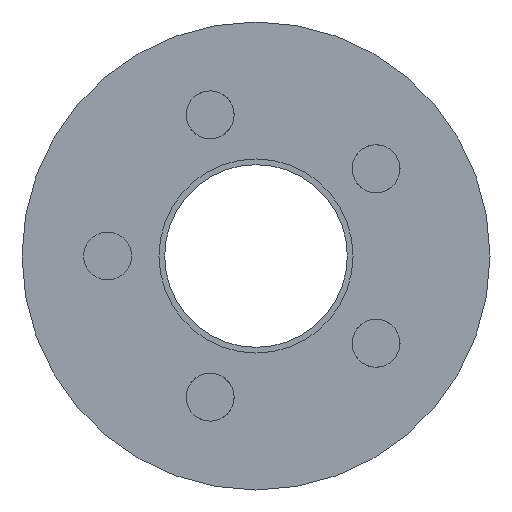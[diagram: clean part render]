
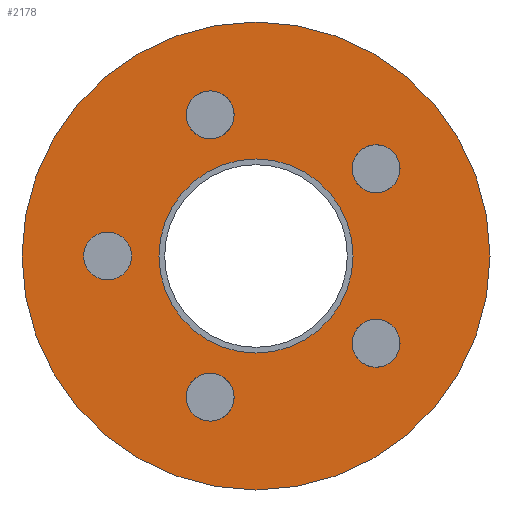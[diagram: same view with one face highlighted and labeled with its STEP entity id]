
A CAD part, left-side view. The second image highlights one B-rep face of the part: STEP entity #2178.
In plain terms, the highlighted planar face has unit normal (-1, 0, 0).
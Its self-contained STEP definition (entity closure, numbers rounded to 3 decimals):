
#1126 = EDGE_LOOP ( 'NONE', ( #2025, #2026 ) ) ;
#1195 = EDGE_CURVE ( 'NONE', #1196, #1197, #1631, .T. ) ;
#1196 = VERTEX_POINT ( 'NONE', #1627 ) ;
#1197 = VERTEX_POINT ( 'NONE', #1626 ) ;
#1219 = EDGE_CURVE ( 'NONE', #1220, #1221, #1586, .T. ) ;
#1220 = VERTEX_POINT ( 'NONE', #1454 ) ;
#1221 = VERTEX_POINT ( 'NONE', #1453 ) ;
#1315 = EDGE_CURVE ( 'NONE', #1316, #1317, #1769, .T. ) ;
#1316 = VERTEX_POINT ( 'NONE', #1764 ) ;
#1317 = VERTEX_POINT ( 'NONE', #1763 ) ;
#1334 = DIRECTION ( 'NONE',  ( 0., 0., -1. ) ) ;
#1399 = EDGE_CURVE ( 'NONE', #1400, #1401, #2509, .T. ) ;
#1400 = VERTEX_POINT ( 'NONE', #2521 ) ;
#1401 = VERTEX_POINT ( 'NONE', #2516 ) ;
#1423 = EDGE_CURVE ( 'NONE', #1424, #1425, #2197, .T. ) ;
#1424 = VERTEX_POINT ( 'NONE', #2583 ) ;
#1425 = VERTEX_POINT ( 'NONE', #2700 ) ;
#1453 = CARTESIAN_POINT ( 'NONE',  ( 0., 13., 2.1 ) ) ;
#1454 = CARTESIAN_POINT ( 'NONE',  ( 0., 13., -2.1 ) ) ;
#1455 = DIRECTION ( 'NONE',  ( 0., 0., -1. ) ) ;
#1584 = DIRECTION ( 'NONE',  ( -1., 0., 0. ) ) ;
#1585 = AXIS2_PLACEMENT_3D ( 'NONE', #1592, #1584, #1455 ) ;
#1586 = CIRCLE ( 'NONE', #1585, 2.1 ) ;
#1592 = CARTESIAN_POINT ( 'NONE',  ( 0., 13., 0. ) ) ;
#1626 = CARTESIAN_POINT ( 'NONE',  ( 0., -10.517, -5.541 ) ) ;
#1627 = CARTESIAN_POINT ( 'NONE',  ( 0., -10.517, -9.741 ) ) ;
#1628 = DIRECTION ( 'NONE',  ( 0., 0., -1. ) ) ;
#1629 = DIRECTION ( 'NONE',  ( -1., 0., 0. ) ) ;
#1630 = AXIS2_PLACEMENT_3D ( 'NONE', #1637, #1629, #1628 ) ;
#1631 = CIRCLE ( 'NONE', #1630, 2.1 ) ;
#1637 = CARTESIAN_POINT ( 'NONE',  ( 0., -10.517, -7.641 ) ) ;
#1763 = CARTESIAN_POINT ( 'NONE',  ( 0., -10.517, 9.741 ) ) ;
#1764 = CARTESIAN_POINT ( 'NONE',  ( 0., -10.517, 5.541 ) ) ;
#1765 = DIRECTION ( 'NONE',  ( 0., 0., -1. ) ) ;
#1766 = DIRECTION ( 'NONE',  ( -1., 0., 0. ) ) ;
#1767 = CARTESIAN_POINT ( 'NONE',  ( 0., -10.517, 7.641 ) ) ;
#1768 = AXIS2_PLACEMENT_3D ( 'NONE', #1767, #1766, #1765 ) ;
#1769 = CIRCLE ( 'NONE', #1768, 2.1 ) ;
#2016 = ORIENTED_EDGE ( 'NONE', *, *, #1315, .F. ) ;
#2017 = ORIENTED_EDGE ( 'NONE', *, *, #2018, .F. ) ;
#2018 = EDGE_CURVE ( 'NONE', #1317, #1316, #2730, .T. ) ;
#2019 = ORIENTED_EDGE ( 'NONE', *, *, #1423, .F. ) ;
#2020 = ORIENTED_EDGE ( 'NONE', *, *, #2021, .F. ) ;
#2021 = EDGE_CURVE ( 'NONE', #1425, #1424, #2577, .T. ) ;
#2025 = ORIENTED_EDGE ( 'NONE', *, *, #2135, .T. ) ;
#2026 = ORIENTED_EDGE ( 'NONE', *, *, #2064, .T. ) ;
#2064 = EDGE_CURVE ( 'NONE', #2133, #2136, #2640, .T. ) ;
#2098 = EDGE_LOOP ( 'NONE', ( #2016, #2017 ) ) ;
#2102 = EDGE_LOOP ( 'NONE', ( #2019, #2020 ) ) ;
#2133 = VERTEX_POINT ( 'NONE', #2278 ) ;
#2135 = EDGE_CURVE ( 'NONE', #2136, #2133, #2333, .T. ) ;
#2136 = VERTEX_POINT ( 'NONE', #2305 ) ;
#2155 = ORIENTED_EDGE ( 'NONE', *, *, #2156, .F. ) ;
#2156 = EDGE_CURVE ( 'NONE', #1221, #1220, #2315, .T. ) ;
#2157 = EDGE_LOOP ( 'NONE', ( #2158, #2160 ) ) ;
#2158 = ORIENTED_EDGE ( 'NONE', *, *, #2159, .F. ) ;
#2159 = EDGE_CURVE ( 'NONE', #2175, #2172, #2311, .T. ) ;
#2160 = ORIENTED_EDGE ( 'NONE', *, *, #2174, .F. ) ;
#2172 = VERTEX_POINT ( 'NONE', #2322 ) ;
#2174 = EDGE_CURVE ( 'NONE', #2172, #2175, #2321, .T. ) ;
#2175 = VERTEX_POINT ( 'NONE', #2271 ) ;
#2178 = ADVANCED_FACE ( 'NONE', ( #2266, #2397, #2396, #2395, #2394, #2393, #2392 ), #2391, .F. ) ;
#2179 = EDGE_LOOP ( 'NONE', ( #2180, #2184 ) ) ;
#2180 = ORIENTED_EDGE ( 'NONE', *, *, #1195, .F. ) ;
#2181 = EDGE_LOOP ( 'NONE', ( #2186, #2187 ) ) ;
#2184 = ORIENTED_EDGE ( 'NONE', *, *, #2185, .F. ) ;
#2185 = EDGE_CURVE ( 'NONE', #1197, #1196, #2380, .T. ) ;
#2186 = ORIENTED_EDGE ( 'NONE', *, *, #1399, .F. ) ;
#2187 = ORIENTED_EDGE ( 'NONE', *, *, #2188, .F. ) ;
#2188 = EDGE_CURVE ( 'NONE', #1401, #1400, #2375, .T. ) ;
#2189 = EDGE_LOOP ( 'NONE', ( #2190, #2155 ) ) ;
#2190 = ORIENTED_EDGE ( 'NONE', *, *, #1219, .F. ) ;
#2194 = DIRECTION ( 'NONE',  ( -1., 0., 0. ) ) ;
#2195 = CARTESIAN_POINT ( 'NONE',  ( 0., 4.017, -12.364 ) ) ;
#2196 = AXIS2_PLACEMENT_3D ( 'NONE', #2195, #2194, #1334 ) ;
#2197 = CIRCLE ( 'NONE', #2196, 2.1 ) ;
#2266 = FACE_BOUND ( 'NONE', #2179, .T. ) ;
#2271 = CARTESIAN_POINT ( 'NONE',  ( 0., 0., 8.5 ) ) ;
#2272 = DIRECTION ( 'NONE',  ( 0., 0., 1. ) ) ;
#2273 = DIRECTION ( 'NONE',  ( -1., 0., 0. ) ) ;
#2274 = CARTESIAN_POINT ( 'NONE',  ( 0., 0., 0. ) ) ;
#2275 = AXIS2_PLACEMENT_3D ( 'NONE', #2274, #2273, #2272 ) ;
#2278 = CARTESIAN_POINT ( 'NONE',  ( 0., 0., -20.5 ) ) ;
#2284 = CARTESIAN_POINT ( 'NONE',  ( 0., 13., 0. ) ) ;
#2305 = CARTESIAN_POINT ( 'NONE',  ( 0., 0., 20.5 ) ) ;
#2306 = DIRECTION ( 'NONE',  ( 0., 0., 1. ) ) ;
#2307 = DIRECTION ( 'NONE',  ( -1., 0., 0. ) ) ;
#2311 = CIRCLE ( 'NONE', #2363, 8.5 ) ;
#2312 = DIRECTION ( 'NONE',  ( 0., 0., -1. ) ) ;
#2313 = DIRECTION ( 'NONE',  ( -1., 0., 0. ) ) ;
#2314 = AXIS2_PLACEMENT_3D ( 'NONE', #2284, #2313, #2312 ) ;
#2315 = CIRCLE ( 'NONE', #2314, 2.1 ) ;
#2321 = CIRCLE ( 'NONE', #2275, 8.5 ) ;
#2322 = CARTESIAN_POINT ( 'NONE',  ( 0., 0., -8.5 ) ) ;
#2333 = CIRCLE ( 'NONE', #2365, 20.5 ) ;
#2360 = DIRECTION ( 'NONE',  ( 0., 0., 1. ) ) ;
#2361 = DIRECTION ( 'NONE',  ( -1., 0., 0. ) ) ;
#2362 = CARTESIAN_POINT ( 'NONE',  ( 0., 0., 0. ) ) ;
#2363 = AXIS2_PLACEMENT_3D ( 'NONE', #2362, #2361, #2360 ) ;
#2364 = CARTESIAN_POINT ( 'NONE',  ( 0., 0., 0. ) ) ;
#2365 = AXIS2_PLACEMENT_3D ( 'NONE', #2364, #2307, #2306 ) ;
#2371 = DIRECTION ( 'NONE',  ( 0., 0., -1. ) ) ;
#2372 = DIRECTION ( 'NONE',  ( -1., 0., 0. ) ) ;
#2373 = CARTESIAN_POINT ( 'NONE',  ( 0., 4.017, 12.364 ) ) ;
#2374 = AXIS2_PLACEMENT_3D ( 'NONE', #2373, #2372, #2371 ) ;
#2375 = CIRCLE ( 'NONE', #2374, 2.1 ) ;
#2376 = DIRECTION ( 'NONE',  ( 0., 0., -1. ) ) ;
#2377 = DIRECTION ( 'NONE',  ( -1., 0., 0. ) ) ;
#2378 = CARTESIAN_POINT ( 'NONE',  ( 0., -10.517, -7.641 ) ) ;
#2379 = AXIS2_PLACEMENT_3D ( 'NONE', #2378, #2377, #2376 ) ;
#2380 = CIRCLE ( 'NONE', #2379, 2.1 ) ;
#2387 = DIRECTION ( 'NONE',  ( 0., 0., -1. ) ) ;
#2388 = DIRECTION ( 'NONE',  ( 1., 0., 0. ) ) ;
#2389 = CARTESIAN_POINT ( 'NONE',  ( 0., 8.5, 0. ) ) ;
#2390 = AXIS2_PLACEMENT_3D ( 'NONE', #2389, #2388, #2387 ) ;
#2391 = PLANE ( 'NONE',  #2390 ) ;
#2392 = FACE_BOUND ( 'NONE', #2102, .T. ) ;
#2393 = FACE_BOUND ( 'NONE', #2098, .T. ) ;
#2394 = FACE_OUTER_BOUND ( 'NONE', #1126, .T. ) ;
#2395 = FACE_BOUND ( 'NONE', #2157, .T. ) ;
#2396 = FACE_BOUND ( 'NONE', #2189, .T. ) ;
#2397 = FACE_BOUND ( 'NONE', #2181, .T. ) ;
#2483 = DIRECTION ( 'NONE',  ( 0., 0., -1. ) ) ;
#2488 = DIRECTION ( 'NONE',  ( -1., 0., 0. ) ) ;
#2507 = CARTESIAN_POINT ( 'NONE',  ( 0., 4.017, 12.364 ) ) ;
#2508 = AXIS2_PLACEMENT_3D ( 'NONE', #2507, #2488, #2483 ) ;
#2509 = CIRCLE ( 'NONE', #2508, 2.1 ) ;
#2516 = CARTESIAN_POINT ( 'NONE',  ( 0., 4.017, 14.464 ) ) ;
#2521 = CARTESIAN_POINT ( 'NONE',  ( 0., 4.017, 10.264 ) ) ;
#2574 = DIRECTION ( 'NONE',  ( 0., 0., -1. ) ) ;
#2575 = DIRECTION ( 'NONE',  ( -1., 0., 0. ) ) ;
#2576 = AXIS2_PLACEMENT_3D ( 'NONE', #2582, #2575, #2574 ) ;
#2577 = CIRCLE ( 'NONE', #2576, 2.1 ) ;
#2578 = DIRECTION ( 'NONE',  ( 0., 0., -1. ) ) ;
#2579 = DIRECTION ( 'NONE',  ( -1., 0., 0. ) ) ;
#2580 = CARTESIAN_POINT ( 'NONE',  ( 0., -10.517, 7.641 ) ) ;
#2581 = AXIS2_PLACEMENT_3D ( 'NONE', #2580, #2579, #2578 ) ;
#2582 = CARTESIAN_POINT ( 'NONE',  ( 0., 4.017, -12.364 ) ) ;
#2583 = CARTESIAN_POINT ( 'NONE',  ( 0., 4.017, -14.464 ) ) ;
#2637 = DIRECTION ( 'NONE',  ( 0., 0., 1. ) ) ;
#2638 = DIRECTION ( 'NONE',  ( -1., 0., 0. ) ) ;
#2639 = AXIS2_PLACEMENT_3D ( 'NONE', #2644, #2638, #2637 ) ;
#2640 = CIRCLE ( 'NONE', #2639, 20.5 ) ;
#2644 = CARTESIAN_POINT ( 'NONE',  ( 0., 0., 0. ) ) ;
#2700 = CARTESIAN_POINT ( 'NONE',  ( 0., 4.017, -10.264 ) ) ;
#2730 = CIRCLE ( 'NONE', #2581, 2.1 ) ;
